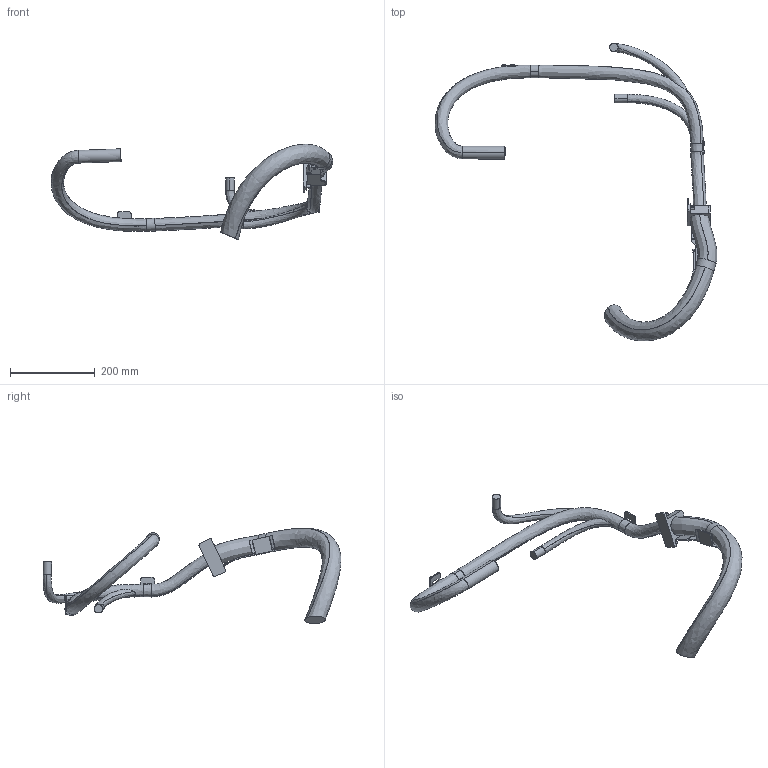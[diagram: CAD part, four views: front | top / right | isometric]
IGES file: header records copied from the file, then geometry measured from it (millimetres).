
Start section: SolidWorks IGES file using analytic representation for surfaces
Global section: file name: C:\DATA\SAP_DOC\LW\IRB 6730S\IRB6730S_270kg-310_OC_01_SW_J\export\IRB6730S_270kg-310_OC_01_IGES_J\IRB6730S-ALL-OC_00_LINK03m_CABLE.igs; native system: SolidWorks 2024; preprocessor: SolidWorks 2024; author: SEJOVAS3; date: 260526.123625; units: millimetre
Bounding box: 662.88 x 701.36 x 224.24 mm (x, y, z)
Surface area: 240189.9 mm2 (no closed solid volume)
Topology: 0 solids, 0 shells, 186 faces, 2668 edges, 2668 vertices
Faces by surface type: bspline 113, revolution 73
